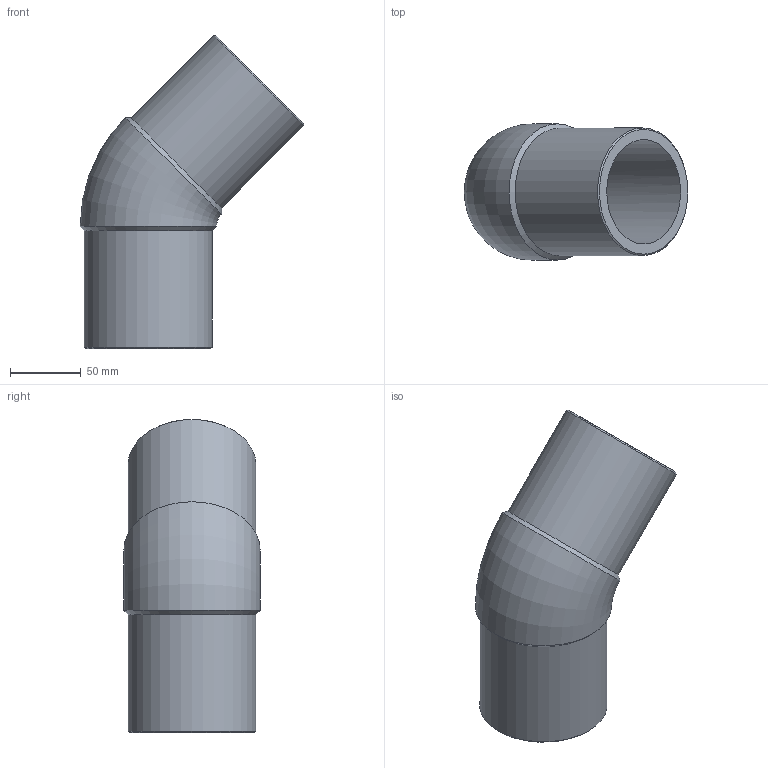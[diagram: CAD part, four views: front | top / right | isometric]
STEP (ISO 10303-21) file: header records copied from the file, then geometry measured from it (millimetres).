
FILE_DESCRIPTION(/* description */ ('Unknown'),/* implementation_level */ '2;1');
FILE_NAME(/* name */ 'G4P090C',/* time_stamp */ '2022-01-19T10:29:09+01:00',/* author */ ('Unknown'),/* organization */ ('Unknown'),/* preprocessor_version */ 'ST-DEVELOPER v18.1',/* originating_system */ 'Solid Edge',/* authorisation */ 'Unknown');
FILE_SCHEMA (('AUTOMOTIVE_DESIGN {1 0 10303 214 3 1 1}'));
Length unit declared in the file: millimetre
Products named in the file (1): G4P090C
Bounding box: 157.6 x 96 x 220.6 mm (x, y, z)
Volume: 507878.8 mm3; surface area: 118349.1 mm2
Topology: 1 solids, 1 shells, 12 faces, 30 edges, 20 vertices
Faces by surface type: cone 4, cylinder 4, plane 2, torus 2
Full cylindrical faces by diameter (mm): 73.6 x2, 90 x2
Entity records: 324 total; most frequent: CARTESIAN_POINT 58, DIRECTION 52, ORIENTED_EDGE 34, AXIS2_PLACEMENT_3D 26, EDGE_LOOP 23, FACE_BOUND 23, EDGE_CURVE 17, VERTEX_POINT 16
